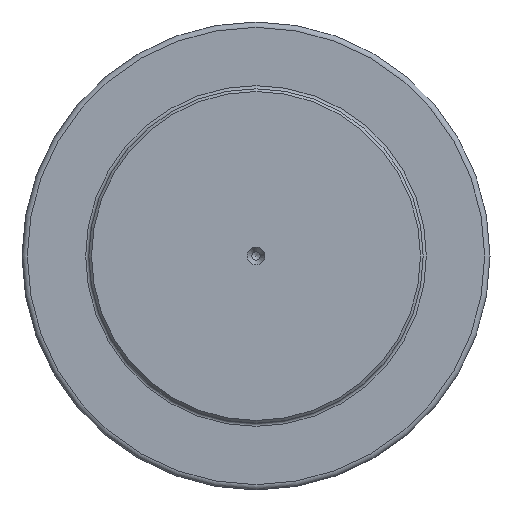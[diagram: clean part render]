
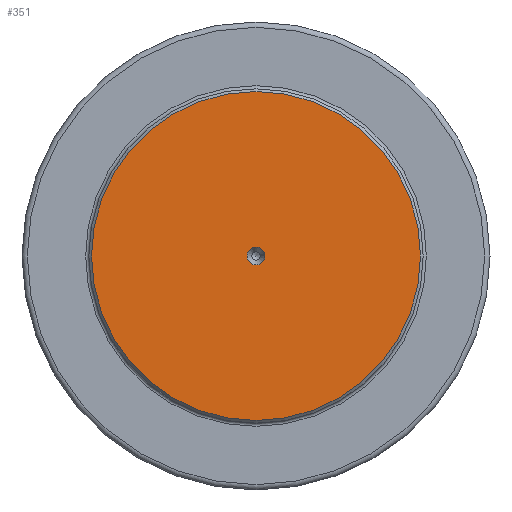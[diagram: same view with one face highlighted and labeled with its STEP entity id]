
A CAD part, left-side view. The second image highlights one B-rep face of the part: STEP entity #351.
In plain terms, the highlighted planar face has unit normal (-1, 0, 0).
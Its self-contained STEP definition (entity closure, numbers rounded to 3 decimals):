
#19=PLANE('',#390);
#42=FACE_BOUND('',#153,.T.);
#68=CIRCLE('',#383,3.35);
#72=CIRCLE('',#391,61.5);
#112=FACE_OUTER_BOUND('',#152,.T.);
#152=EDGE_LOOP('',(#296));
#153=EDGE_LOOP('',(#297));
#214=VERTEX_POINT('',#981);
#218=VERTEX_POINT('',#993);
#248=EDGE_CURVE('',#214,#214,#68,.T.);
#252=EDGE_CURVE('',#218,#218,#72,.T.);
#296=ORIENTED_EDGE('',*,*,#252,.T.);
#297=ORIENTED_EDGE('',*,*,#248,.T.);
#351=ADVANCED_FACE('',(#112,#42),#19,.T.);
#383=AXIS2_PLACEMENT_3D('',#982,#452,#453);
#390=AXIS2_PLACEMENT_3D('',#992,#466,#467);
#391=AXIS2_PLACEMENT_3D('',#994,#468,#469);
#452=DIRECTION('center_axis',(1.,0.,0.));
#453=DIRECTION('ref_axis',(0.,-1.,0.));
#466=DIRECTION('center_axis',(-1.,0.,0.));
#467=DIRECTION('ref_axis',(0.,0.,1.));
#468=DIRECTION('center_axis',(-1.,0.,0.));
#469=DIRECTION('ref_axis',(0.,0.,1.));
#981=CARTESIAN_POINT('',(31.289,168.436,0.));
#982=CARTESIAN_POINT('Origin',(31.289,171.786,0.));
#992=CARTESIAN_POINT('Origin',(31.289,171.786,0.));
#993=CARTESIAN_POINT('',(31.289,110.286,0.));
#994=CARTESIAN_POINT('Origin',(31.289,171.786,0.));
